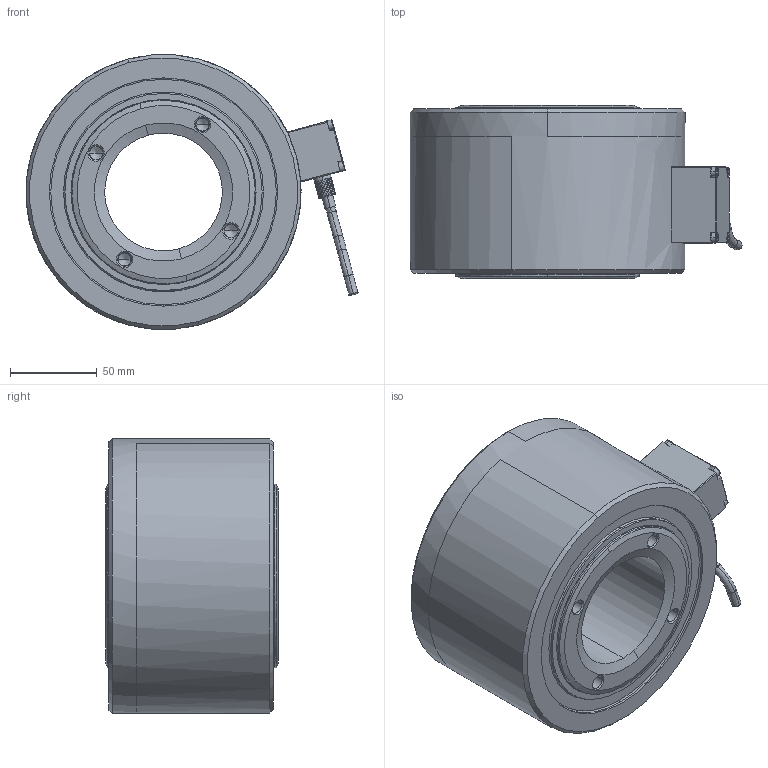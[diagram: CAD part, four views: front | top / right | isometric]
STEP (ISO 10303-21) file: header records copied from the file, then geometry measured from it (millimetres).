
FILE_DESCRIPTION((''),'2;1');
FILE_NAME('C6B_2MN','2018-06-11T',('esche'),(''),'CREO PARAMETRIC BY PTC INC, 2017170','CREO PARAMETRIC BY PTC INC, 2017170','');
FILE_SCHEMA(('CONFIG_CONTROL_DESIGN'));
Length unit declared in the file: millimetre
Products named in the file (1): C6B_2MN
Bounding box: 191.91 x 100 x 159 mm (x, y, z)
Volume: 1579390.6 mm3; surface area: 112266.1 mm2
Topology: 1 solids, 2 shells, 277 faces, 636 edges, 372 vertices
Faces by surface type: bspline 277
Entity records: 12232 total; most frequent: CARTESIAN_POINT 6325, ORIENTED_EDGE 1232, DIRECTION 866, EDGE_CURVE 616, VERTEX_POINT 372, VECTOR 322, LINE 322, EDGE_LOOP 310
